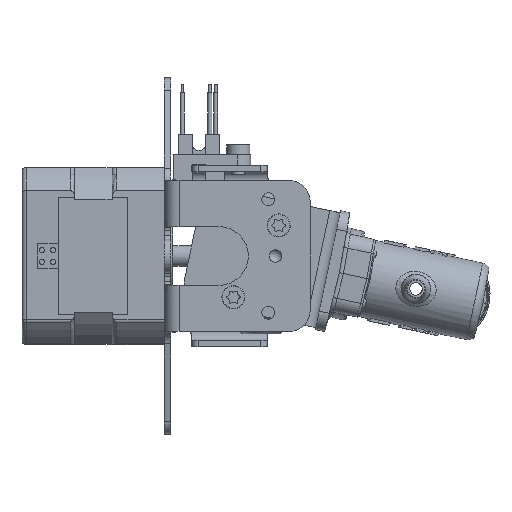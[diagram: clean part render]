
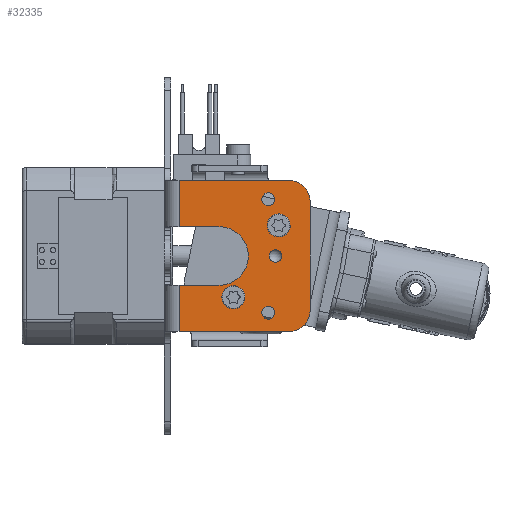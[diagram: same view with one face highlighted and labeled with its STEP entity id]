
A CAD part, front view. The second image highlights one B-rep face of the part: STEP entity #32335.
In plain terms, the highlighted planar face has unit normal (0, -1, 0) as drawn and (1, 0, 0) by its records, which use the part's own axes.
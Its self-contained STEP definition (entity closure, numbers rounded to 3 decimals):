
#876 = CIRCLE ( 'NONE', #14579, 5. ) ;
#971 = FACE_BOUND ( 'NONE', #26781, .T. ) ;
#1040 = CIRCLE ( 'NONE', #8182, 5. ) ;
#1359 = DIRECTION ( 'NONE',  ( 0., 0., 1. ) ) ;
#1420 = DIRECTION ( 'NONE',  ( 0., 0., 1. ) ) ;
#1596 = CIRCLE ( 'NONE', #29275, 1.55 ) ;
#2345 = DIRECTION ( 'NONE',  ( 1., 0., 0. ) ) ;
#2520 = EDGE_CURVE ( 'NONE', #18054, #29314, #10706, .T. ) ;
#3131 = VERTEX_POINT ( 'NONE', #4624 ) ;
#3652 = VECTOR ( 'NONE', #16980, 1000. ) ;
#3985 = CARTESIAN_POINT ( 'NONE',  ( 22.75, -7., -0.699 ) ) ;
#4509 = DIRECTION ( 'NONE',  ( 0., 0., -1. ) ) ;
#4624 = CARTESIAN_POINT ( 'NONE',  ( 22.75, -18., 3.5 ) ) ;
#5597 = CARTESIAN_POINT ( 'NONE',  ( 22.75, -18., 29.753 ) ) ;
#5812 = EDGE_CURVE ( 'NONE', #9781, #29955, #19593, .T. ) ;
#5898 = ORIENTED_EDGE ( 'NONE', *, *, #14478, .F. ) ;
#6064 = CARTESIAN_POINT ( 'NONE',  ( 22.75, -13., 29.753 ) ) ;
#6964 = FACE_BOUND ( 'NONE', #21440, .T. ) ;
#7718 = ORIENTED_EDGE ( 'NONE', *, *, #25708, .F. ) ;
#8182 = AXIS2_PLACEMENT_3D ( 'NONE', #31828, #16568, #1359 ) ;
#8320 = CIRCLE ( 'NONE', #21703, 1.491 ) ;
#8666 = DIRECTION ( 'NONE',  ( 0., 0., -1. ) ) ;
#9103 = CARTESIAN_POINT ( 'NONE',  ( 22.75, 18., 3.5 ) ) ;
#9160 = CARTESIAN_POINT ( 'NONE',  ( 22.75, 7., 13.001 ) ) ;
#9781 = VERTEX_POINT ( 'NONE', #21286 ) ;
#9786 = DIRECTION ( 'NONE',  ( 1., 0., 0. ) ) ;
#10301 = DIRECTION ( 'NONE',  ( 1., 0., 0. ) ) ;
#10451 = CARTESIAN_POINT ( 'NONE',  ( 22.75, 13., 3.5 ) ) ;
#10706 = LINE ( 'NONE', #13618, #23050 ) ;
#11105 = VECTOR ( 'NONE', #4509, 1000. ) ;
#11209 = DIRECTION ( 'NONE',  ( 0., 0., -1. ) ) ;
#11270 = VECTOR ( 'NONE', #30272, 1000. ) ;
#11854 = DIRECTION ( 'NONE',  ( -1., 0., 0. ) ) ;
#11878 = EDGE_CURVE ( 'NONE', #3131, #25971, #13506, .T. ) ;
#12474 = CARTESIAN_POINT ( 'NONE',  ( 22.75, -18., -5.487 ) ) ;
#12668 = CARTESIAN_POINT ( 'NONE',  ( 22.75, -13.52, 23.2 ) ) ;
#13009 = ORIENTED_EDGE ( 'NONE', *, *, #11878, .F. ) ;
#13404 = CARTESIAN_POINT ( 'NONE',  ( 22.75, -13.52, 24.75 ) ) ;
#13506 = LINE ( 'NONE', #12474, #11270 ) ;
#13618 = CARTESIAN_POINT ( 'NONE',  ( 22.75, 13., 34.753 ) ) ;
#14085 = EDGE_CURVE ( 'NONE', #25971, #18054, #876, .T. ) ;
#14207 = CARTESIAN_POINT ( 'NONE',  ( 22.75, 7., 3.5 ) ) ;
#14478 = EDGE_CURVE ( 'NONE', #15621, #15621, #1596, .T. ) ;
#14480 = CARTESIAN_POINT ( 'NONE',  ( 22.75, 13., 3.5 ) ) ;
#14579 = AXIS2_PLACEMENT_3D ( 'NONE', #6064, #23820, #8666 ) ;
#14994 = ORIENTED_EDGE ( 'NONE', *, *, #2520, .F. ) ;
#15527 = LINE ( 'NONE', #29009, #16563 ) ;
#15545 = DIRECTION ( 'NONE',  ( 0., -1., 0. ) ) ;
#15621 = VERTEX_POINT ( 'NONE', #12668 ) ;
#15835 = AXIS2_PLACEMENT_3D ( 'NONE', #24966, #9786, #27525 ) ;
#15934 = DIRECTION ( 'NONE',  ( 0., 0., -1. ) ) ;
#16563 = VECTOR ( 'NONE', #11209, 1000. ) ;
#16568 = DIRECTION ( 'NONE',  ( -1., 0., 0. ) ) ;
#16615 = EDGE_CURVE ( 'NONE', #29314, #25824, #1040, .T. ) ;
#16807 = EDGE_CURVE ( 'NONE', #32724, #32724, #8320, .T. ) ;
#16980 = DIRECTION ( 'NONE',  ( 0., -1., 0. ) ) ;
#17133 = LINE ( 'NONE', #14480, #3652 ) ;
#17570 = CARTESIAN_POINT ( 'NONE',  ( 22.75, 0., 26.5 ) ) ;
#17845 = EDGE_CURVE ( 'NONE', #31163, #31163, #22298, .T. ) ;
#17870 = CARTESIAN_POINT ( 'NONE',  ( 22.75, 0., 25.009 ) ) ;
#18054 = VERTEX_POINT ( 'NONE', #23125 ) ;
#18335 = EDGE_LOOP ( 'NONE', ( #22562, #26149, #32065, #25048, #25558, #7718, #26010, #14994, #26754, #13009 ) ) ;
#18409 = VECTOR ( 'NONE', #1420, 1000. ) ;
#19217 = VERTEX_POINT ( 'NONE', #9103 ) ;
#19593 = LINE ( 'NONE', #3985, #18409 ) ;
#19707 = CARTESIAN_POINT ( 'NONE',  ( 22.75, 18., -5.487 ) ) ;
#19771 = AXIS2_PLACEMENT_3D ( 'NONE', #27082, #11854, #29655 ) ;
#19932 = LINE ( 'NONE', #19707, #11105 ) ;
#20088 = DIRECTION ( 'NONE',  ( 0., 0., -1. ) ) ;
#21210 = FACE_BOUND ( 'NONE', #27598, .T. ) ;
#21286 = CARTESIAN_POINT ( 'NONE',  ( 22.75, -7., 3.5 ) ) ;
#21440 = EDGE_LOOP ( 'NONE', ( #5898 ) ) ;
#21703 = AXIS2_PLACEMENT_3D ( 'NONE', #17570, #2345, #20088 ) ;
#22079 = ORIENTED_EDGE ( 'NONE', *, *, #17845, .F. ) ;
#22298 = CIRCLE ( 'NONE', #15835, 1.55 ) ;
#22437 = VERTEX_POINT ( 'NONE', #14207 ) ;
#22562 = ORIENTED_EDGE ( 'NONE', *, *, #27001, .F. ) ;
#23050 = VECTOR ( 'NONE', #32685, 1000. ) ;
#23125 = CARTESIAN_POINT ( 'NONE',  ( 22.75, -13., 34.753 ) ) ;
#23820 = DIRECTION ( 'NONE',  ( -1., 0., 0. ) ) ;
#24063 = VECTOR ( 'NONE', #15545, 1000. ) ;
#24872 = EDGE_CURVE ( 'NONE', #31619, #22437, #15527, .T. ) ;
#24966 = CARTESIAN_POINT ( 'NONE',  ( 22.75, 13.52, 24.75 ) ) ;
#25048 = ORIENTED_EDGE ( 'NONE', *, *, #24872, .T. ) ;
#25528 = PLANE ( 'NONE',  #30440 ) ;
#25558 = ORIENTED_EDGE ( 'NONE', *, *, #31818, .F. ) ;
#25708 = EDGE_CURVE ( 'NONE', #25824, #19217, #19932, .T. ) ;
#25824 = VERTEX_POINT ( 'NONE', #32839 ) ;
#25971 = VERTEX_POINT ( 'NONE', #5597 ) ;
#26010 = ORIENTED_EDGE ( 'NONE', *, *, #16615, .F. ) ;
#26149 = ORIENTED_EDGE ( 'NONE', *, *, #5812, .T. ) ;
#26754 = ORIENTED_EDGE ( 'NONE', *, *, #14085, .F. ) ;
#26781 = EDGE_LOOP ( 'NONE', ( #28897 ) ) ;
#27001 = EDGE_CURVE ( 'NONE', #9781, #3131, #17133, .T. ) ;
#27082 = CARTESIAN_POINT ( 'NONE',  ( 22.75, 0., 13.001 ) ) ;
#27248 = FACE_OUTER_BOUND ( 'NONE', #18335, .T. ) ;
#27525 = DIRECTION ( 'NONE',  ( 0., 0., -1. ) ) ;
#27598 = EDGE_LOOP ( 'NONE', ( #22079 ) ) ;
#27973 = CARTESIAN_POINT ( 'NONE',  ( 22.75, 13., -70.75 ) ) ;
#28076 = DIRECTION ( 'NONE',  ( 0., 0., -1. ) ) ;
#28433 = CARTESIAN_POINT ( 'NONE',  ( 22.75, -7., 13.001 ) ) ;
#28587 = EDGE_CURVE ( 'NONE', #29955, #31619, #29243, .T. ) ;
#28897 = ORIENTED_EDGE ( 'NONE', *, *, #16807, .F. ) ;
#29009 = CARTESIAN_POINT ( 'NONE',  ( 22.75, 7., 13.001 ) ) ;
#29243 = CIRCLE ( 'NONE', #19771, 7. ) ;
#29275 = AXIS2_PLACEMENT_3D ( 'NONE', #13404, #31199, #15934 ) ;
#29314 = VERTEX_POINT ( 'NONE', #32586 ) ;
#29655 = DIRECTION ( 'NONE',  ( 0., 0., 1. ) ) ;
#29955 = VERTEX_POINT ( 'NONE', #28433 ) ;
#30272 = DIRECTION ( 'NONE',  ( 0., 0., 1. ) ) ;
#30440 = AXIS2_PLACEMENT_3D ( 'NONE', #27973, #10301, #28076 ) ;
#30668 = CARTESIAN_POINT ( 'NONE',  ( 22.75, 13.52, 23.2 ) ) ;
#31163 = VERTEX_POINT ( 'NONE', #30668 ) ;
#31199 = DIRECTION ( 'NONE',  ( 1., 0., 0. ) ) ;
#31619 = VERTEX_POINT ( 'NONE', #9160 ) ;
#31655 = LINE ( 'NONE', #10451, #24063 ) ;
#31818 = EDGE_CURVE ( 'NONE', #19217, #22437, #31655, .T. ) ;
#31828 = CARTESIAN_POINT ( 'NONE',  ( 22.75, 13., 29.753 ) ) ;
#32065 = ORIENTED_EDGE ( 'NONE', *, *, #28587, .T. ) ;
#32335 = ADVANCED_FACE ( 'NONE', ( #6964, #21210, #971, #27248 ), #25528, .T. ) ;
#32586 = CARTESIAN_POINT ( 'NONE',  ( 22.75, 13., 34.753 ) ) ;
#32685 = DIRECTION ( 'NONE',  ( 0., 1., 0. ) ) ;
#32724 = VERTEX_POINT ( 'NONE', #17870 ) ;
#32839 = CARTESIAN_POINT ( 'NONE',  ( 22.75, 18., 29.753 ) ) ;
